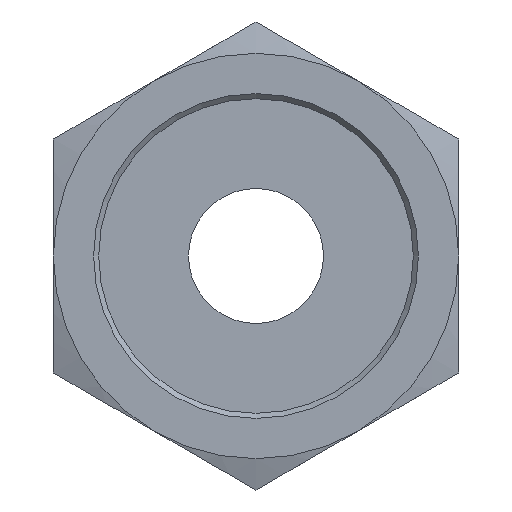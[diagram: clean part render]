
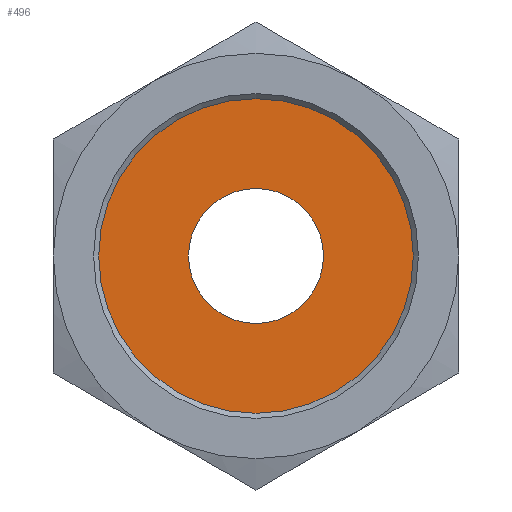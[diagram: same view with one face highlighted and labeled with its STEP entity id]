
A CAD part, front view. The second image highlights one B-rep face of the part: STEP entity #496.
In plain terms, the highlighted planar face has unit normal (0, -1, 0).
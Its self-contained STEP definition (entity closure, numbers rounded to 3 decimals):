
#56=FACE_BOUND('',#126,.T.);
#64=PLANE('',#578);
#86=FACE_OUTER_BOUND('',#125,.T.);
#125=EDGE_LOOP('',(#380));
#126=EDGE_LOOP('',(#381));
#187=CIRCLE('',#547,4.);
#202=CIRCLE('',#570,9.316);
#220=VERTEX_POINT('',#773);
#234=VERTEX_POINT('',#815);
#265=EDGE_CURVE('',#220,#220,#187,.T.);
#285=EDGE_CURVE('',#234,#234,#202,.T.);
#380=ORIENTED_EDGE('',*,*,#285,.T.);
#381=ORIENTED_EDGE('',*,*,#265,.T.);
#496=ADVANCED_FACE('',(#86,#56),#64,.T.);
#547=AXIS2_PLACEMENT_3D('',#775,#621,#622);
#570=AXIS2_PLACEMENT_3D('',#817,#672,#673);
#578=AXIS2_PLACEMENT_3D('',#831,#688,#689);
#621=DIRECTION('center_axis',(0.,1.,0.));
#622=DIRECTION('ref_axis',(1.,0.,0.));
#672=DIRECTION('center_axis',(0.,-1.,0.));
#673=DIRECTION('ref_axis',(1.,0.,0.));
#688=DIRECTION('center_axis',(0.,-1.,0.));
#689=DIRECTION('ref_axis',(1.,0.,0.));
#773=CARTESIAN_POINT('',(-4.,14.5,0.));
#775=CARTESIAN_POINT('Origin',(0.,14.5,0.));
#815=CARTESIAN_POINT('',(-9.316,14.5,0.));
#817=CARTESIAN_POINT('Origin',(0.,14.5,0.));
#831=CARTESIAN_POINT('Origin',(0.,14.5,0.));
